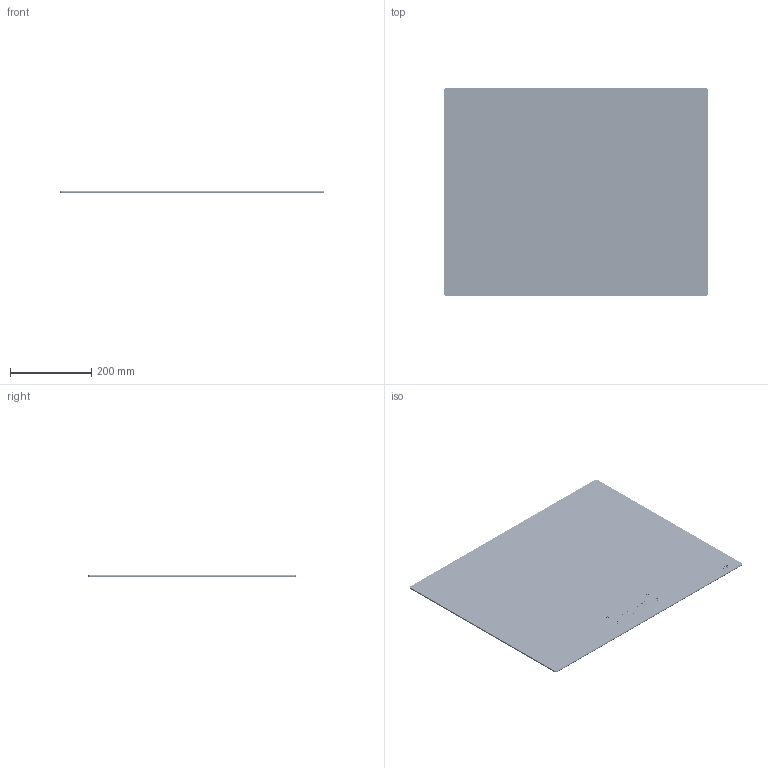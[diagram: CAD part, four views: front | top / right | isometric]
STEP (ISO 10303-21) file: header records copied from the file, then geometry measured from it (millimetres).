
FILE_DESCRIPTION(/* description */ (''),/* implementation_level */ '2;1');
FILE_NAME(/* name */ '3D001_Induction hob_Maris_K-Link',/* time_stamp */ '2024-03-19T16:29:08+01:00',/* author */ (''),/* organization */ (''),/* preprocessor_version */ 'ST-DEVELOPER v19.2',/* originating_system */ 'Rhino 8.4',/* authorisation */ '');
FILE_SCHEMA (('CONFIG_CONTROL_DESIGN'));
Products named in the file (2): Document; 108001_039
Bounding box: 650 x 510 x 4.6 mm (x, y, z)
Volume: 1324627.5 mm3; surface area: 677893.4 mm2
Topology: 97 solids, 21785 shells, 22514 faces, 23584 edges, 22952 vertices
Faces by surface type: plane 22301, cylinder 204, bspline 9
Full cylindrical faces by diameter (mm): 2.489 x1
Entity records: 414605 total; most frequent: CARTESIAN_POINT 75005, DIRECTION 65901, AXIS2_PLACEMENT_3D 44203, ORIENTED_EDGE 25480, EDGE_CURVE 23584, VERTEX_POINT 22952, EDGE_LOOP 22556, ADVANCED_FACE 22514
